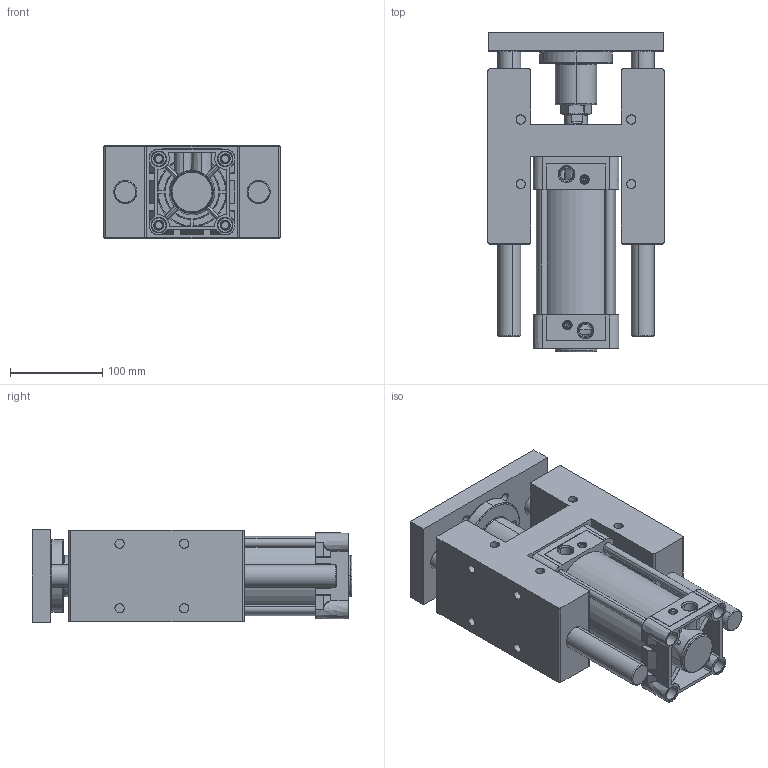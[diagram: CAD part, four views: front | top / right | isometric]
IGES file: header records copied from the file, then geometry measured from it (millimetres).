
Start section: SolidWorks IGES file using analytic representation for surfaces
Global section: file name: D:\ARICA 3D 禽Z軲LER\3D IGES\DNC-H\TDNC\80\TDNC80X80H-YATAK.IGS,1; native system: 5HSolidWorks 2013; preprocessor: SolidWorks 2013; author: user; date: 160520.121706; units: millimetre
Bounding box: 191 x 346.9 x 100.5 mm (x, y, z)
Surface area: 633060.8 mm2 (no closed solid volume)
Topology: 0 solids, 0 shells, 1222 faces, 20464 edges, 20454 vertices
Faces by surface type: revolution 757, bspline 465
